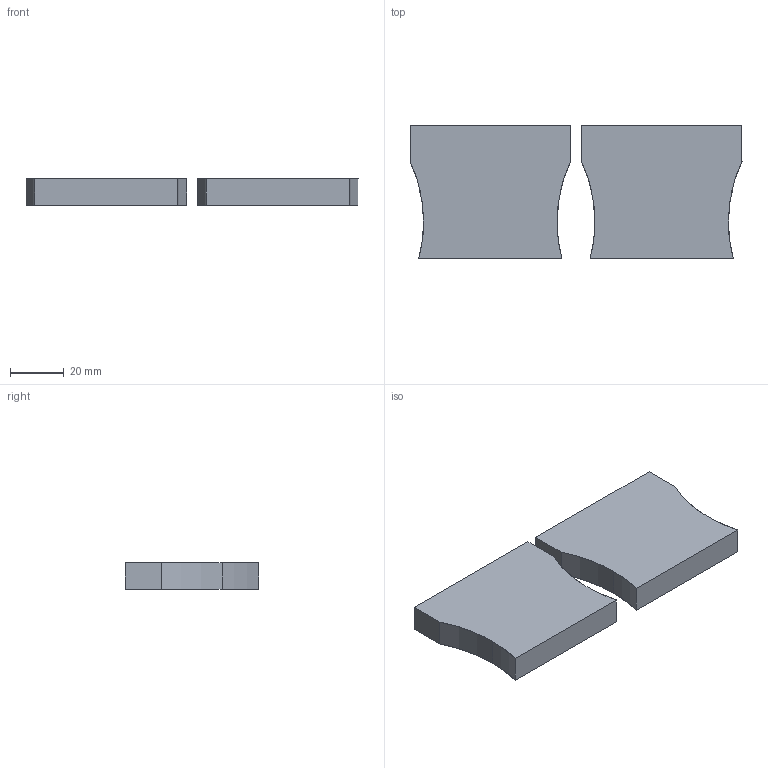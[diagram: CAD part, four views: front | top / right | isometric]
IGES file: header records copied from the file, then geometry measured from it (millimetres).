
Start section: SolidWorks IGES FILE using analytic representation for surfaces
Global section: file name: C:\Documents and Settings\MYKEUL\Bureau\FABRICATION MAQUETTES FINAL\MAQUETTE N°3 SUSPENDU\FICHIERS FAB ASSEMBLAGE\FICHIERS IGS\Sous pilier sans perc.IGS; native system: SolidWorks 2001 by SolidWorks Corporation; preprocessor: Version 5.2; author: MYKEUL; date: 081031.171546; units: millimetre
Bounding box: 124 x 50 x 10 mm (x, y, z)
Surface area: 15194.1 mm2 (no closed solid volume)
Topology: 0 solids, 0 shells, 20 faces, 128 edges, 128 vertices
Faces by surface type: bspline 12, revolution 8
